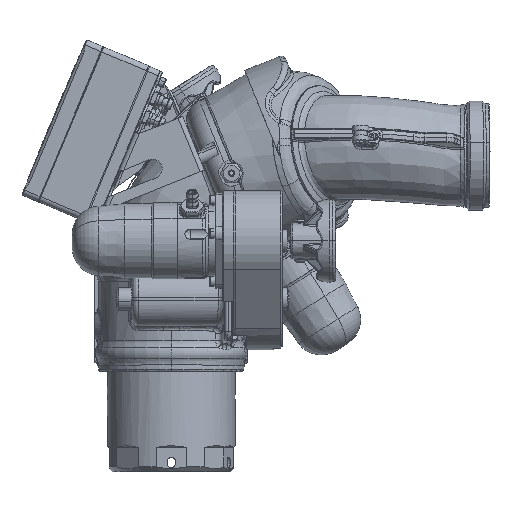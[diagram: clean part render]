
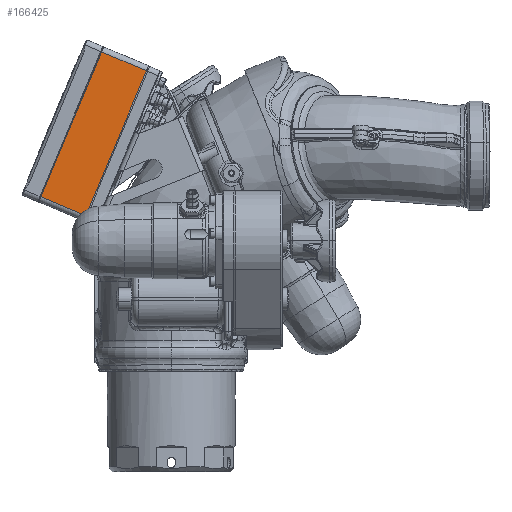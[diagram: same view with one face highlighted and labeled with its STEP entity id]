
A CAD part, top view. The second image highlights one B-rep face of the part: STEP entity #166425.
In plain terms, the highlighted planar face has unit normal (0, 0, 1).
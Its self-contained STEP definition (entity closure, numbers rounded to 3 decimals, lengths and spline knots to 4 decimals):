
#1652 = LINE ( 'NONE', #158487, #30114 ) ;
#15961 = VECTOR ( 'NONE', #148144, 39.3701 ) ;
#20304 = CARTESIAN_POINT ( 'NONE',  ( -6.1973, 7.8158, 2.8714 ) ) ;
#23881 = ORIENTED_EDGE ( 'NONE', *, *, #79211, .T. ) ;
#30114 = VECTOR ( 'NONE', #74706, 39.3701 ) ;
#31963 = FACE_OUTER_BOUND ( 'NONE', #38510, .T. ) ;
#38510 = EDGE_LOOP ( 'NONE', ( #169563, #23881, #81720, #45717 ) ) ;
#40092 = DIRECTION ( 'NONE',  ( 0.386, 0.923, 0. ) ) ;
#45717 = ORIENTED_EDGE ( 'NONE', *, *, #128618, .F. ) ;
#54160 = CARTESIAN_POINT ( 'NONE',  ( -6.808, 1.4812, 2.8714 ) ) ;
#59595 = PLANE ( 'NONE',  #69204 ) ;
#62227 = DIRECTION ( 'NONE',  ( -0.923, 0.386, 0. ) ) ;
#68360 = VERTEX_POINT ( 'NONE', #54160 ) ;
#69204 = AXIS2_PLACEMENT_3D ( 'NONE', #96181, #149122, #40092 ) ;
#70125 = VECTOR ( 'NONE', #62227, 39.3701 ) ;
#74706 = DIRECTION ( 'NONE',  ( 0.386, 0.923, 0. ) ) ;
#79211 = EDGE_CURVE ( 'NONE', #68360, #143418, #1652, .T. ) ;
#81265 = CARTESIAN_POINT ( 'NONE',  ( -6.7157, 1.4426, 2.8714 ) ) ;
#81720 = ORIENTED_EDGE ( 'NONE', *, *, #162610, .T. ) ;
#89711 = VERTEX_POINT ( 'NONE', #20304 ) ;
#96181 = CARTESIAN_POINT ( 'NONE',  ( -6.7157, 1.4426, 2.8714 ) ) ;
#96401 = VERTEX_POINT ( 'NONE', #147869 ) ;
#99664 = EDGE_CURVE ( 'NONE', #68360, #96401, #121368, .T. ) ;
#101990 = CARTESIAN_POINT ( 'NONE',  ( -4.3705, 7.0521, 2.8714 ) ) ;
#110355 = VECTOR ( 'NONE', #121739, 39.3701 ) ;
#111147 = CARTESIAN_POINT ( 'NONE',  ( -4.4628, 7.0907, 2.8714 ) ) ;
#119142 = LINE ( 'NONE', #135333, #15961 ) ;
#121368 = LINE ( 'NONE', #81265, #110355 ) ;
#121739 = DIRECTION ( 'NONE',  ( -0.923, 0.386, 0. ) ) ;
#128618 = EDGE_CURVE ( 'NONE', #96401, #89711, #119142, .T. ) ;
#135333 = CARTESIAN_POINT ( 'NONE',  ( -8.5425, 2.2064, 2.8714 ) ) ;
#143418 = VERTEX_POINT ( 'NONE', #111147 ) ;
#144573 = LINE ( 'NONE', #101990, #70125 ) ;
#147869 = CARTESIAN_POINT ( 'NONE',  ( -8.5425, 2.2064, 2.8714 ) ) ;
#148144 = DIRECTION ( 'NONE',  ( 0.386, 0.923, 0. ) ) ;
#149122 = DIRECTION ( 'NONE',  ( 0., 0., 1. ) ) ;
#158487 = CARTESIAN_POINT ( 'NONE',  ( -4.4628, 7.0907, 2.8714 ) ) ;
#162610 = EDGE_CURVE ( 'NONE', #143418, #89711, #144573, .T. ) ;
#166425 = ADVANCED_FACE ( 'NONE', ( #31963 ), #59595, .T. ) ;
#169563 = ORIENTED_EDGE ( 'NONE', *, *, #99664, .F. ) ;
